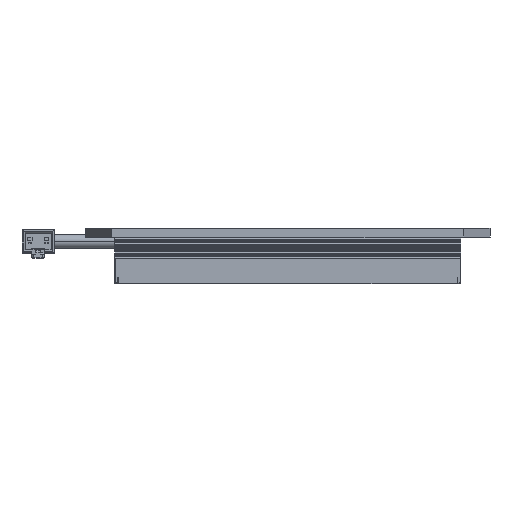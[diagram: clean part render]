
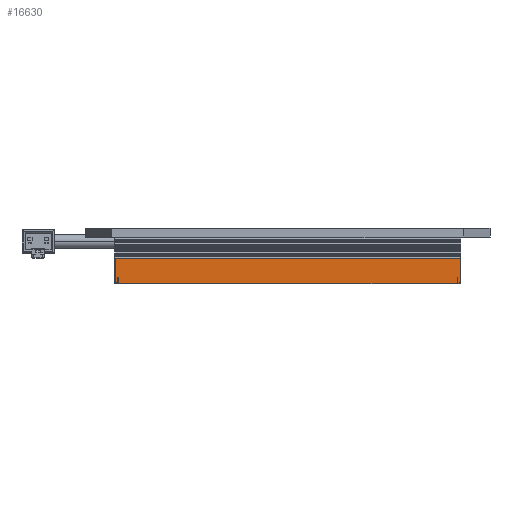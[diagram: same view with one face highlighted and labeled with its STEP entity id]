
A CAD part, left-side view. The second image highlights one B-rep face of the part: STEP entity #16630.
In plain terms, the highlighted planar face has unit normal (-1, 0, 0).
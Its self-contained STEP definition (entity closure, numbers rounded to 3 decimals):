
#2685=DIRECTION('',(0.,-1.,0.));
#2686=VECTOR('',#2685,0.2);
#2687=CARTESIAN_POINT('',(-56.5,-55.3,-13.));
#2688=LINE('',#2687,#2686);
#2689=DIRECTION('',(0.,0.,1.));
#2690=VECTOR('',#2689,2.);
#2691=CARTESIAN_POINT('',(-56.5,-55.3,-15.));
#2692=LINE('',#2691,#2690);
#2693=DIRECTION('',(0.,-1.,0.));
#2694=VECTOR('',#2693,110.6);
#2695=CARTESIAN_POINT('',(-56.5,55.3,-15.));
#2696=LINE('',#2695,#2694);
#2697=DIRECTION('',(0.,0.,-1.));
#2698=VECTOR('',#2697,2.);
#2699=CARTESIAN_POINT('',(-56.5,55.3,-13.));
#2700=LINE('',#2699,#2698);
#2701=DIRECTION('',(0.,-1.,0.));
#2702=VECTOR('',#2701,0.2);
#2703=CARTESIAN_POINT('',(-56.5,55.5,-13.));
#2704=LINE('',#2703,#2702);
#2705=DIRECTION('',(0.,-1.,0.));
#2706=VECTOR('',#2705,0.8);
#2707=CARTESIAN_POINT('',(-56.5,-55.5,-14.8));
#2708=LINE('',#2707,#2706);
#2709=DIRECTION('',(0.,0.,-1.));
#2710=VECTOR('',#2709,1.8);
#2711=CARTESIAN_POINT('',(-56.5,-55.5,-13.));
#2712=LINE('',#2711,#2710);
#2733=DIRECTION('',(0.,0.,-1.));
#2734=VECTOR('',#2733,1.8);
#2735=CARTESIAN_POINT('',(-56.5,55.5,-13.));
#2736=LINE('',#2735,#2734);
#9509=DIRECTION('',(0.,0.,1.));
#9510=VECTOR('',#9509,7.95);
#9511=CARTESIAN_POINT('',(-56.5,56.3,-14.8));
#9512=LINE('',#9511,#9510);
#9519=DIRECTION('',(0.,-1.,0.));
#9520=VECTOR('',#9519,112.6);
#9521=CARTESIAN_POINT('',(-56.5,56.3,-6.85));
#9522=LINE('',#9521,#9520);
#9527=DIRECTION('',(0.,0.,-1.));
#9528=VECTOR('',#9527,7.95);
#9529=CARTESIAN_POINT('',(-56.5,-56.3,-6.85));
#9530=LINE('',#9529,#9528);
#9603=DIRECTION('',(0.,1.,0.));
#9604=VECTOR('',#9603,0.8);
#9605=CARTESIAN_POINT('',(-56.5,55.5,-14.8));
#9606=LINE('',#9605,#9604);
#10106=CARTESIAN_POINT('',(-56.5,55.5,-13.));
#10108=VERTEX_POINT('',#10106);
#10109=CARTESIAN_POINT('',(-56.5,-55.5,-13.));
#10111=VERTEX_POINT('',#10109);
#10268=CARTESIAN_POINT('',(-56.5,-55.5,-14.8));
#10270=VERTEX_POINT('',#10268);
#10271=CARTESIAN_POINT('',(-56.5,-56.3,-14.8));
#10272=VERTEX_POINT('',#10271);
#10277=CARTESIAN_POINT('',(-56.5,56.3,-6.85));
#10278=CARTESIAN_POINT('',(-56.5,-56.3,-6.85));
#10279=VERTEX_POINT('',#10277);
#10280=VERTEX_POINT('',#10278);
#10281=CARTESIAN_POINT('',(-56.5,55.5,-14.8));
#10282=VERTEX_POINT('',#10281);
#10283=CARTESIAN_POINT('',(-56.5,56.3,-14.8));
#10284=VERTEX_POINT('',#10283);
#10463=CARTESIAN_POINT('',(-56.5,55.3,-15.));
#10465=VERTEX_POINT('',#10463);
#10466=CARTESIAN_POINT('',(-56.5,-55.3,-15.));
#10467=VERTEX_POINT('',#10466);
#12393=CARTESIAN_POINT('',(-56.5,55.3,-13.));
#12395=VERTEX_POINT('',#12393);
#12397=CARTESIAN_POINT('',(-56.5,-55.3,-13.));
#12399=VERTEX_POINT('',#12397);
#16603=CARTESIAN_POINT('',(-56.5,-56.5,0.));
#16604=DIRECTION('',(-1.,0.,0.));
#16605=DIRECTION('',(0.,1.,0.));
#16606=AXIS2_PLACEMENT_3D('',#16603,#16604,#16605);
#16607=PLANE('',#16606);
#16608=ORIENTED_EDGE('',*,*,#16582,.F.);
#16610=ORIENTED_EDGE('',*,*,#16609,.F.);
#16611=ORIENTED_EDGE('',*,*,#13046,.F.);
#16612=ORIENTED_EDGE('',*,*,#16596,.F.);
#16613=ORIENTED_EDGE('',*,*,#16570,.F.);
#16615=ORIENTED_EDGE('',*,*,#16614,.T.);
#16617=ORIENTED_EDGE('',*,*,#16616,.T.);
#16619=ORIENTED_EDGE('',*,*,#16618,.T.);
#16621=ORIENTED_EDGE('',*,*,#16620,.T.);
#16623=ORIENTED_EDGE('',*,*,#16622,.T.);
#16625=ORIENTED_EDGE('',*,*,#16624,.F.);
#16627=ORIENTED_EDGE('',*,*,#16626,.F.);
#16628=EDGE_LOOP('',(#16608,#16610,#16611,#16612,#16613,#16615,#16617,#16619,
#16621,#16623,#16625,#16627));
#16629=FACE_OUTER_BOUND('',#16628,.F.);
#16630=ADVANCED_FACE('',(#16629),#16607,.T.);
#13046=EDGE_CURVE('',#10465,#10467,#2696,.T.);
#16570=EDGE_CURVE('',#10108,#12395,#2704,.T.);
#16582=EDGE_CURVE('',#12399,#10111,#2688,.T.);
#16596=EDGE_CURVE('',#12395,#10465,#2700,.T.);
#16609=EDGE_CURVE('',#10467,#12399,#2692,.T.);
#16614=EDGE_CURVE('',#10108,#10282,#2736,.T.);
#16616=EDGE_CURVE('',#10282,#10284,#9606,.T.);
#16618=EDGE_CURVE('',#10284,#10279,#9512,.T.);
#16620=EDGE_CURVE('',#10279,#10280,#9522,.T.);
#16622=EDGE_CURVE('',#10280,#10272,#9530,.T.);
#16624=EDGE_CURVE('',#10270,#10272,#2708,.T.);
#16626=EDGE_CURVE('',#10111,#10270,#2712,.T.);
